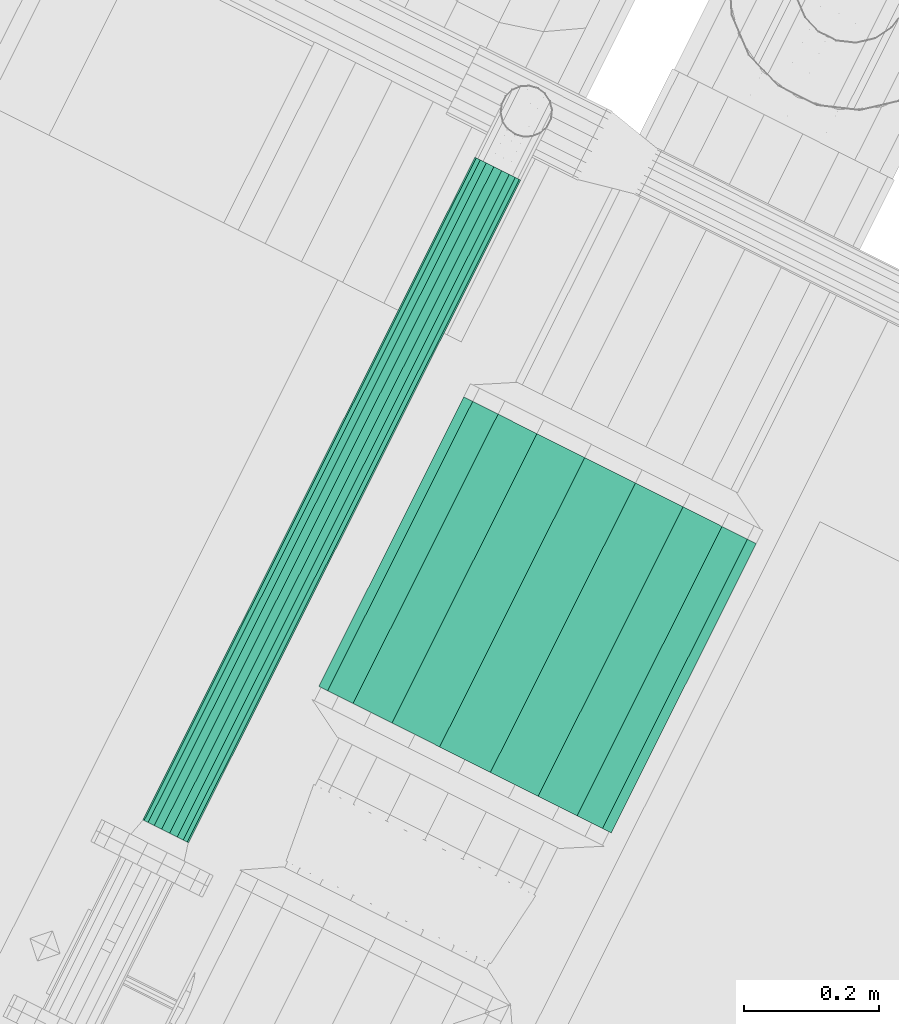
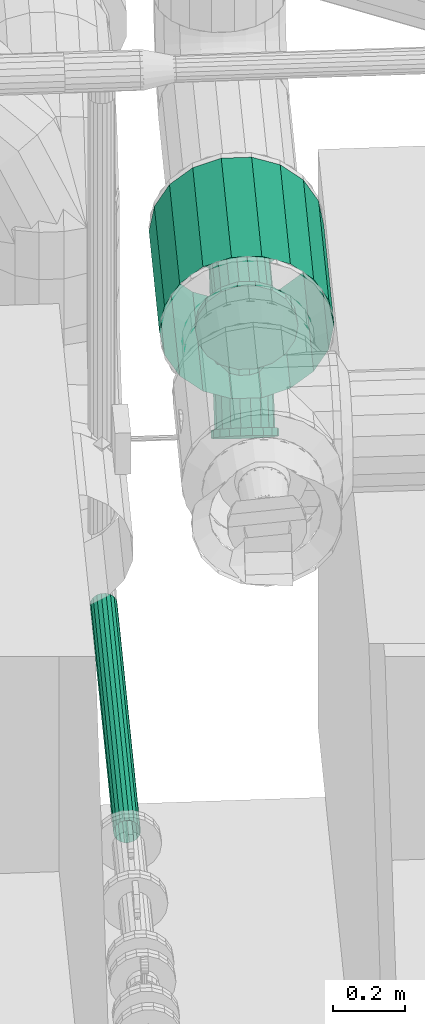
# One storey, part 13 of 206: 1 flow segment, 1 flow treatment device.
"""IFC2X3 building model written with IfcOpenShell, lengths in metres."""

from ifc_helpers import new_model, si_unit, derived_unit, direction, frame, origin, place, context, subcontext, project, spatial, face_set, surface_model, source, transform, mapped, material, type_object, type_shapes, element, save


model = new_model("IFC2X3")

# Units and contexts
model_context = context("Model", 3, precision=5.2338327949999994e-05, world=origin(), true_north=direction((0.0, 1.0)))
body_context = subcontext(model_context, "Body", "Model", "MODEL_VIEW")
ifc_project = project(units=[si_unit("LENGTHUNIT", "METRE"), si_unit("AREAUNIT", "SQUARE_METRE"), si_unit("VOLUMEUNIT", "CUBIC_METRE"), si_unit("MASSUNIT", "GRAM", prefix="KILO"), si_unit("PLANEANGLEUNIT", "RADIAN"), derived_unit("THERMALTRANSMITTANCEUNIT", [(si_unit("MASSUNIT", "GRAM", prefix="KILO"), 1), (si_unit("THERMODYNAMICTEMPERATUREUNIT", "KELVIN"), -1), (si_unit("TIMEUNIT", "SECOND"), -3)])], contexts=[model_context])

# Site, building, storey
site_placement = place(None, frame((0.0, 0.0, 0.0), z_axis=(0.0, 0.0, 1.0), x_axis=(0.8939966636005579, -0.4480736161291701, 0.0)))
site = spatial("IfcSite", under=ifc_project, at=site_placement, Name="Default", CompositionType="ELEMENT")
building_placement = place(site_placement, origin())
building = spatial("IfcBuilding", under=site, at=building_placement, CompositionType="ELEMENT")
storey_placement = place(building_placement, origin())
storey = spatial("IfcBuildingStorey", under=building, at=storey_placement, Name="Erdgeschoss", CompositionType="ELEMENT", Elevation=0.0)

# Flow treatment device
ifc_material_1 = material(Name="IfcSurfaceStyle #1741")
distribution_element_type_1 = type_object("IfcDistributionElementType", Name="Schmutzfänger 341058:Schmutzfänger 341058", material=ifc_material_1)
shared_shape_1 = source(origin(), body_context, "Body", "SurfaceModel", [
    surface_model("IfcFaceBasedSurfaceModel", [(25.439855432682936, 7.32099127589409, 2.159995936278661), (25.468636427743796, 7.325017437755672, 2.1569065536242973), (25.468636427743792, 7.415576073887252, 2.274924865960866), (25.43985543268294, 7.4052852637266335, 2.269849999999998), (25.493946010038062, 7.336610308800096, 2.1480110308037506), (25.493946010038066, 7.445207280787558, 2.2895373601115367), (25.5127314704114, 7.354371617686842, 2.13438229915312), (25.51273147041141, 7.4906049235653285, 2.311925), (25.52272700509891, 7.376159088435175, 2.117664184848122), (25.522727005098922, 7.546293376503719, 2.33938750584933), (25.522727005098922, 7.399344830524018, 2.099873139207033), (25.522727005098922, 7.583130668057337, 2.3393875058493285), (25.512731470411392, 7.4211323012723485, 2.0831550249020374), (25.512731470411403, 7.596673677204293, 2.3119250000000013), (25.49394601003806, 7.438893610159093, 2.0695262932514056), (25.493946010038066, 7.607714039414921, 2.28953736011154), (25.468636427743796, 7.450486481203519, 2.0606307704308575), (25.468636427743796, 7.614920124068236, 2.2749248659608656), (25.439855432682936, 7.454512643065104, 2.057541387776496), (25.439855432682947, 7.617422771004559, 2.2698500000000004), (25.411074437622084, 7.450486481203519, 2.0606307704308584), (25.41107443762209, 7.614920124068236, 2.2749248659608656), (25.385764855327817, 7.438893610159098, 2.0695262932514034), (25.385764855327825, 7.6077140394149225, 2.289537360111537), (25.366979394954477, 7.42113230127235, 2.0831550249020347), (25.366979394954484, 7.5966736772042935, 2.3119250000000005), (25.35698386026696, 7.399344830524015, 2.099873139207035), (25.35698386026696, 7.583130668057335, 2.33938750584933), (25.35698386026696, 7.376159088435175, 2.117664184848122), (25.35698386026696, 7.54629337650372, 2.339387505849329), (25.36697939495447, 7.35437161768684, 2.1343822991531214), (25.36697939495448, 7.4906049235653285, 2.3119250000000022), (25.385764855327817, 7.3366103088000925, 2.148011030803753), (25.38576485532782, 7.445207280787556, 2.2895373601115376), (25.411074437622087, 7.325017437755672, 2.1569065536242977), (25.41107443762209, 7.415576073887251, 2.2749248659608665), (25.29735543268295, 7.656892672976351, 2.353999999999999), (25.30594923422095, 7.6568926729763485, 2.305262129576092), (25.30594923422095, 7.634892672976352, 2.305262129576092), (25.29735543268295, 7.634892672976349, 2.353999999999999), (25.33069409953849, 7.656892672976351, 2.262402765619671), (25.33069409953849, 7.634892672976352, 2.262402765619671), (25.368605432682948, 7.656892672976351, 2.2305913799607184), (25.368605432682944, 7.634892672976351, 2.2305913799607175), (25.415110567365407, 7.656892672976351, 2.2136648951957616), (25.415110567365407, 7.634892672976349, 2.2136648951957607), (25.46460029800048, 7.6568926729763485, 2.21366489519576), (25.46460029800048, 7.634892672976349, 2.2136648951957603), (25.511105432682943, 7.656892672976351, 2.2305913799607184), (25.511105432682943, 7.634892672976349, 2.2305913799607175), (25.549016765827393, 7.656892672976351, 2.262402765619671), (25.549016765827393, 7.634892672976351, 2.2624027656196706), (25.57376163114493, 7.6568926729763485, 2.3052621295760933), (25.573761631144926, 7.634892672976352, 2.305262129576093), (25.582355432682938, 7.656892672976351, 2.3540000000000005), (25.582355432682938, 7.634892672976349, 2.3540000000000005), (25.57376163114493, 7.656892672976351, 2.402737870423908), (25.57376163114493, 7.634892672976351, 2.4027378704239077), (25.549016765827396, 7.656892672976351, 2.445597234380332), (25.549016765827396, 7.634892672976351, 2.4455972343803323), (25.511105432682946, 7.656892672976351, 2.4774086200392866), (25.511105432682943, 7.634892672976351, 2.4774086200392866), (25.46460029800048, 7.656892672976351, 2.49433510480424), (25.46460029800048, 7.634892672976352, 2.49433510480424), (25.415110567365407, 7.656892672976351, 2.4943351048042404), (25.415110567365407, 7.634892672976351, 2.49433510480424), (25.368605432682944, 7.656892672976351, 2.4774086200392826), (25.368605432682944, 7.634892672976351, 2.4774086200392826), (25.33069409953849, 7.656892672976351, 2.445597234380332), (25.33069409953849, 7.634892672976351, 2.4455972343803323), (25.30594923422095, 7.656892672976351, 2.402737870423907), (25.30594923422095, 7.634892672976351, 2.4027378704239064), (25.439855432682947, 7.656892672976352, 2.3540000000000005), (25.43985543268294, 7.634892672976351, 2.3540000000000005), (25.355705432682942, 7.634892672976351, 2.3539999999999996), (25.360780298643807, 7.634892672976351, 2.325219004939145), (25.360780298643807, 7.19889267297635, 2.325219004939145), (25.355705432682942, 7.19889267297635, 2.3539999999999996), (25.37539279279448, 7.634892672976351, 2.299909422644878), (25.37539279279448, 7.19889267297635, 2.299909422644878), (25.39778043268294, 7.634892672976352, 2.2811239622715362), (25.397780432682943, 7.198892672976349, 2.2811239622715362), (25.425242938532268, 7.634892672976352, 2.2711284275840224), (25.42524293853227, 7.198892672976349, 2.2711284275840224), (25.454467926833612, 7.634892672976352, 2.271128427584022), (25.454467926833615, 7.198892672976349, 2.2711284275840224), (25.481930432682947, 7.634892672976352, 2.2811239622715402), (25.481930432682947, 7.19889267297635, 2.2811239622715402), (25.5043180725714, 7.634892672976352, 2.299909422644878), (25.5043180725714, 7.198892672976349, 2.299909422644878), (25.518930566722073, 7.634892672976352, 2.325219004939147), (25.518930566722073, 7.198892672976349, 2.325219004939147), (25.524005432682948, 7.634892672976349, 2.3539999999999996), (25.524005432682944, 7.19889267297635, 2.353999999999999), (25.518930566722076, 7.634892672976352, 2.382780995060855), (25.518930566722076, 7.19889267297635, 2.382780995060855), (25.504318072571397, 7.634892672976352, 2.4080905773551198), (25.504318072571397, 7.198892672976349, 2.4080905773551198), (25.481930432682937, 7.634892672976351, 2.426876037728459), (25.481930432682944, 7.19889267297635, 2.42687603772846), (25.454467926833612, 7.634892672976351, 2.436871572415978), (25.454467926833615, 7.19889267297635, 2.436871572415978), (25.425242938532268, 7.634892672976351, 2.4368715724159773), (25.42524293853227, 7.19889267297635, 2.4368715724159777), (25.39778043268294, 7.634892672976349, 2.4268760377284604), (25.39778043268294, 7.198892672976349, 2.426876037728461), (25.37539279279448, 7.634892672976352, 2.408090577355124), (25.37539279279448, 7.198892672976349, 2.408090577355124), (25.36078029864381, 7.634892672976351, 2.382780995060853), (25.36078029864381, 7.19889267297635, 2.382780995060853), (25.29735543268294, 7.19889267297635, 2.354), (25.305949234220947, 7.19889267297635, 2.305262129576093), (25.30594923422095, 7.176892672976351, 2.305262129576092), (25.29735543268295, 7.176892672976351, 2.3539999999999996), (25.33069409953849, 7.19889267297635, 2.2624027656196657), (25.33069409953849, 7.176892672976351, 2.262402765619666), (25.368605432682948, 7.19889267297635, 2.2305913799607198), (25.368605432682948, 7.176892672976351, 2.230591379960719), (25.415110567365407, 7.19889267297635, 2.21366489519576), (25.41511056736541, 7.176892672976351, 2.2136648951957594), (25.46460029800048, 7.19889267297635, 2.2136648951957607), (25.464600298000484, 7.176892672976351, 2.2136648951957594), (25.511105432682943, 7.19889267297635, 2.2305913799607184), (25.511105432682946, 7.176892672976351, 2.230591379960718), (25.549016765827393, 7.19889267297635, 2.262402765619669), (25.549016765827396, 7.176892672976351, 2.2624027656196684), (25.57376163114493, 7.19889267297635, 2.3052621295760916), (25.57376163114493, 7.17689267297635, 2.3052621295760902), (25.582355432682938, 7.19889267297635, 2.354000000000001), (25.582355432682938, 7.17689267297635, 2.354000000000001), (25.57376163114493, 7.19889267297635, 2.402737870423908), (25.57376163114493, 7.176892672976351, 2.4027378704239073), (25.549016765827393, 7.19889267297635, 2.4455972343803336), (25.549016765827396, 7.17689267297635, 2.4455972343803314), (25.511105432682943, 7.19889267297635, 2.4774086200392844), (25.511105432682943, 7.176892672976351, 2.4774086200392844), (25.46460029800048, 7.19889267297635, 2.49433510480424), (25.464600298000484, 7.176892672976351, 2.4943351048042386), (25.415110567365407, 7.19889267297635, 2.4943351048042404), (25.41511056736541, 7.176892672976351, 2.4943351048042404), (25.368605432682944, 7.19889267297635, 2.477408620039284), (25.368605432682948, 7.176892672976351, 2.477408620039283), (25.33069409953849, 7.19889267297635, 2.445597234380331), (25.330694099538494, 7.176892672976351, 2.445597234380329), (25.30594923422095, 7.19889267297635, 2.402737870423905), (25.30594923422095, 7.176892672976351, 2.4027378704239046), (25.439855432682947, 7.19889267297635, 2.3540000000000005), (25.439855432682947, 7.176892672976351, 2.3539999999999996), (25.345705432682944, 7.387751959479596, 2.108768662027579), (25.35138337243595, 7.413298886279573, 2.0891658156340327), (25.35138337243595, 7.399906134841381, 2.071712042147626), (25.345705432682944, 7.374359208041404, 2.091314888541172), (25.367732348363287, 7.43576447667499, 2.0719273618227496), (25.36773234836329, 7.422371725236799, 2.054473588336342), (25.392780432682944, 7.452439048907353, 2.0591325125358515), (25.39278043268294, 7.439046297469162, 2.0416787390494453), (25.423506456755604, 7.461311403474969, 2.0523245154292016), (25.423506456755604, 7.447918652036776, 2.034870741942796), (25.456204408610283, 7.461311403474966, 2.052324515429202), (25.456204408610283, 7.447918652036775, 2.0348707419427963), (25.48693043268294, 7.452439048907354, 2.05913251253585), (25.486930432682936, 7.4390462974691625, 2.0416787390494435), (25.511978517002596, 7.43576447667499, 2.071927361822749), (25.5119785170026, 7.422371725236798, 2.0544735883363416), (25.528327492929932, 7.41329888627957, 2.089165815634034), (25.528327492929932, 7.399906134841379, 2.071712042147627), (25.534005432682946, 7.387751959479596, 2.108768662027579), (25.534005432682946, 7.374359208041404, 2.0913148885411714), (25.528327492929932, 7.362205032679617, 2.1283715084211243), (25.528327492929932, 7.348812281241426, 2.1109177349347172), (25.511978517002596, 7.339739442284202, 2.145609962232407), (25.511978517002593, 7.32634669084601, 2.1281561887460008), (25.48693043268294, 7.323064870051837, 2.1584048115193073), (25.486930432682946, 7.309672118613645, 2.1409510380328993), (25.456204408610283, 7.3141925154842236, 2.1652128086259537), (25.456204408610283, 7.300799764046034, 2.1477590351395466), (25.423506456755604, 7.314192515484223, 2.165212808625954), (25.423506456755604, 7.300799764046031, 2.1477590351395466), (25.39278043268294, 7.323064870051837, 2.1584048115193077), (25.39278043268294, 7.309672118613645, 2.1409510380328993), (25.367732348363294, 7.339739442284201, 2.1456099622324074), (25.36773234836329, 7.32634669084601, 2.1281561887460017), (25.35138337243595, 7.362205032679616, 2.128371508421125), (25.35138337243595, 7.3488122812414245, 2.1109177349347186), (25.43985543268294, 7.387751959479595, 2.10876866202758), (25.43985543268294, 7.374359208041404, 2.091314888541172), (25.35570543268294, 7.374359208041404, 2.091314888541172), (25.36078029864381, 7.397192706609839, 2.0737941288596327), (25.360780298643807, 7.287813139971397, 1.9312479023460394), (25.355705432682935, 7.264979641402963, 1.9487686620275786), (25.37539279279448, 7.417272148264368, 2.0583866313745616), (25.37539279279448, 7.307892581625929, 1.9158404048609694), (25.39778043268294, 7.432175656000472, 2.0469507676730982), (25.397780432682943, 7.32279608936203, 1.9044045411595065), (25.42524293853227, 7.440105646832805, 2.040865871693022), (25.42524293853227, 7.3307260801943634, 1.8983196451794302), (25.45446792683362, 7.440105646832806, 2.04086587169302), (25.454467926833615, 7.330726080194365, 1.898319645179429), (25.481930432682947, 7.432175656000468, 2.0469507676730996), (25.481930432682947, 7.3227960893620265, 1.9044045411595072), (25.504318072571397, 7.41727214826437, 2.05838663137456), (25.5043180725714, 7.30789258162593, 1.9158404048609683), (25.518930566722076, 7.397192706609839, 2.0737941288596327), (25.518930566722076, 7.287813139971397, 1.9312479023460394), (25.524005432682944, 7.374359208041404, 2.091314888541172), (25.524005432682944, 7.264979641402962, 1.9487686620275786), (25.51893056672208, 7.351525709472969, 2.10883564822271), (25.518930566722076, 7.242146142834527, 1.9662894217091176), (25.504318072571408, 7.3314462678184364, 2.124243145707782), (25.504318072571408, 7.222066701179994, 1.9816969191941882), (25.481930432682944, 7.3165427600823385, 2.1356790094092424), (25.481930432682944, 7.207163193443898, 1.99313278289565), (25.454467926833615, 7.3086127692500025, 2.1417639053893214), (25.454467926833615, 7.199233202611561, 1.9992176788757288), (25.42524293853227, 7.308612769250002, 2.141763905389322), (25.42524293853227, 7.19923320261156, 1.9992176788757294), (25.397780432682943, 7.3165427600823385, 2.135679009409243), (25.397780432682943, 7.207163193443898, 1.9931327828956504), (25.37539279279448, 7.3314462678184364, 2.124243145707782), (25.37539279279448, 7.222066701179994, 1.9816969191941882), (25.36078029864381, 7.35152570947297, 2.1088356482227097), (25.36078029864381, 7.242146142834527, 1.966289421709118), (25.345705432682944, 7.264979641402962, 1.9487686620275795), (25.351383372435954, 7.290526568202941, 1.9291658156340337), (25.351383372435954, 7.277133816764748, 1.9117120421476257), (25.345705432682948, 7.251586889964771, 1.9313148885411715), (25.36773234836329, 7.312992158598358, 1.9119273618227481), (25.36773234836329, 7.299599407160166, 1.8944735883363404), (25.39278043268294, 7.329666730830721, 1.8991325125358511), (25.39278043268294, 7.316273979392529, 1.8816787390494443), (25.423506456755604, 7.3385390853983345, 1.8923245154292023), (25.423506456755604, 7.325146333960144, 1.874870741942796), (25.456204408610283, 7.3385390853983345, 1.8923245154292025), (25.456204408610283, 7.325146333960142, 1.8748707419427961), (25.486930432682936, 7.329666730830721, 1.8991325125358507), (25.486930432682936, 7.316273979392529, 1.8816787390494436), (25.5119785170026, 7.312992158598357, 1.9119273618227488), (25.5119785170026, 7.299599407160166, 1.894473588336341), (25.528327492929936, 7.290526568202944, 1.9291658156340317), (25.528327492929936, 7.277133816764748, 1.9117120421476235), (25.534005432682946, 7.264979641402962, 1.9487686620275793), (25.534005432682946, 7.25158688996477, 1.9313148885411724), (25.528327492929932, 7.239432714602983, 1.9683715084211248), (25.528327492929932, 7.226039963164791, 1.9509177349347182), (25.511978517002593, 7.216967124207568, 1.985609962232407), (25.511978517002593, 7.203574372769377, 1.9681561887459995), (25.486930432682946, 7.200292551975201, 1.9984048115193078), (25.48693043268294, 7.186899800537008, 1.9809510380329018), (25.45620440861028, 7.19142019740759, 2.0052128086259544), (25.456204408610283, 7.1780274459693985, 1.9877590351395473), (25.4235064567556, 7.191420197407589, 2.0052128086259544), (25.423506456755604, 7.178027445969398, 1.9877590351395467), (25.39278043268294, 7.200292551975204, 1.998404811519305), (25.39278043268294, 7.186899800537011, 1.9809510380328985), (25.36773234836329, 7.2169671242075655, 1.9856099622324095), (25.367732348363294, 7.203574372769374, 1.968156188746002), (25.351383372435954, 7.239432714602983, 1.9683715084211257), (25.351383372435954, 7.22603996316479, 1.950917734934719), (25.43985543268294, 7.264979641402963, 1.9487686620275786), (25.43985543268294, 7.251586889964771, 1.931314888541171), (25.19735543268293, 7.656892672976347, 2.3540000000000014), (25.211979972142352, 7.656892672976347, 2.2710601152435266), (25.211979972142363, 7.176892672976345, 2.2710601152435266), (25.197355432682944, 7.176892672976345, 2.354000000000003), (25.254089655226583, 7.656892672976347, 2.198124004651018), (25.25408965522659, 7.176892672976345, 2.198124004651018), (25.31860543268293, 7.656892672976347, 2.1439888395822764), (25.318605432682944, 7.176892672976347, 2.1439888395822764), (25.397745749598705, 7.6568926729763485, 2.11518411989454), (25.397745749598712, 7.176892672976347, 2.1151841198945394), (25.481965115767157, 7.6568926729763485, 2.115184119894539), (25.48196511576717, 7.17689267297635, 2.115184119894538), (25.56110543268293, 7.656892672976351, 2.143988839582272), (25.561105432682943, 7.176892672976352, 2.143988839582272), (25.625621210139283, 7.656892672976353, 2.198124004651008), (25.625621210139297, 7.176892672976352, 2.198124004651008), (25.667730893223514, 7.656892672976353, 2.27106011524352), (25.66773089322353, 7.176892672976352, 2.2710601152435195), (25.682355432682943, 7.656892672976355, 2.353999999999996), (25.682355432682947, 7.176892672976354, 2.353999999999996), (25.66773089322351, 7.656892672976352, 2.436939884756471), (25.66773089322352, 7.176892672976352, 2.4369398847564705), (25.625621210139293, 7.656892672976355, 2.5098759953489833), (25.6256212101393, 7.176892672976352, 2.509875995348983), (25.561105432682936, 7.656892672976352, 2.564011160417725), (25.56110543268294, 7.176892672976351, 2.5640111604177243), (25.48196511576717, 7.656892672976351, 2.59281588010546), (25.48196511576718, 7.176892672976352, 2.5928158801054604), (25.397745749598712, 7.6568926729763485, 2.592815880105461), (25.397745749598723, 7.17689267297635, 2.592815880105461), (25.318605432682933, 7.656892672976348, 2.564011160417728), (25.318605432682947, 7.176892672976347, 2.564011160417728), (25.254089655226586, 7.656892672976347, 2.509875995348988), (25.254089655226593, 7.176892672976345, 2.509875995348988), (25.211979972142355, 7.656892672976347, 2.4369398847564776), (25.211979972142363, 7.176892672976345, 2.436939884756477)], [face_set([[[0, 1, 2, 3]], [[1, 4, 5, 2]], [[4, 6, 7, 5]], [[6, 8, 9, 7]], [[8, 10, 11, 9]], [[10, 12, 13, 11]], [[12, 14, 15, 13]], [[14, 16, 17, 15]], [[16, 18, 19, 17]], [[18, 20, 21, 19]], [[20, 22, 23, 21]], [[22, 24, 25, 23]], [[24, 26, 27, 25]], [[26, 28, 29, 27]], [[28, 30, 31, 29]], [[30, 32, 33, 31]], [[32, 34, 35, 33]], [[34, 0, 3, 35]], [[36, 37, 38, 39]], [[37, 40, 41, 38]], [[40, 42, 43, 41]], [[42, 44, 45, 43]], [[44, 46, 47, 45]], [[46, 48, 49, 47]], [[48, 50, 51, 49]], [[50, 52, 53, 51]], [[52, 54, 55, 53]], [[54, 56, 57, 55]], [[56, 58, 59, 57]], [[58, 60, 61, 59]], [[60, 62, 63, 61]], [[62, 64, 65, 63]], [[64, 66, 67, 65]], [[66, 68, 69, 67]], [[68, 70, 71, 69]], [[70, 36, 39, 71]], [[72, 37, 36]], [[72, 40, 37]], [[72, 42, 40]], [[72, 44, 42]], [[72, 46, 44]], [[72, 48, 46]], [[72, 50, 48]], [[72, 52, 50]], [[72, 54, 52]], [[72, 56, 54]], [[72, 58, 56]], [[72, 60, 58]], [[72, 62, 60]], [[72, 64, 62]], [[72, 66, 64]], [[72, 68, 66]], [[72, 70, 68]], [[72, 36, 70]], [[73, 71, 39]], [[73, 69, 71]], [[73, 67, 69]], [[73, 65, 67]], [[73, 63, 65]], [[73, 61, 63]], [[73, 59, 61]], [[73, 57, 59]], [[73, 55, 57]], [[73, 53, 55]], [[73, 51, 53]], [[73, 49, 51]], [[73, 47, 49]], [[73, 45, 47]], [[73, 43, 45]], [[73, 41, 43]], [[73, 38, 41]], [[73, 39, 38]], [[74, 75, 76, 77]], [[75, 78, 79, 76]], [[78, 80, 81, 79]], [[80, 82, 83, 81]], [[82, 84, 85, 83]], [[84, 86, 87, 85]], [[86, 88, 89, 87]], [[88, 90, 91, 89]], [[90, 92, 93, 91]], [[92, 94, 95, 93]], [[94, 96, 97, 95]], [[96, 98, 99, 97]], [[98, 100, 101, 99]], [[100, 102, 103, 101]], [[102, 104, 105, 103]], [[104, 106, 107, 105]], [[106, 108, 109, 107]], [[108, 74, 77, 109]], [[110, 111, 112, 113]], [[111, 114, 115, 112]], [[114, 116, 117, 115]], [[116, 118, 119, 117]], [[118, 120, 121, 119]], [[120, 122, 123, 121]], [[122, 124, 125, 123]], [[124, 126, 127, 125]], [[126, 128, 129, 127]], [[128, 130, 131, 129]], [[130, 132, 133, 131]], [[132, 134, 135, 133]], [[134, 136, 137, 135]], [[136, 138, 139, 137]], [[138, 140, 141, 139]], [[140, 142, 143, 141]], [[142, 144, 145, 143]], [[144, 110, 113, 145]], [[146, 111, 110]], [[146, 114, 111]], [[146, 116, 114]], [[146, 118, 116]], [[146, 120, 118]], [[146, 122, 120]], [[146, 124, 122]], [[146, 126, 124]], [[146, 128, 126]], [[146, 130, 128]], [[146, 132, 130]], [[146, 134, 132]], [[146, 136, 134]], [[146, 138, 136]], [[146, 140, 138]], [[146, 142, 140]], [[146, 144, 142]], [[146, 110, 144]], [[147, 145, 113]], [[147, 143, 145]], [[147, 141, 143]], [[147, 139, 141]], [[147, 137, 139]], [[147, 135, 137]], [[147, 133, 135]], [[147, 131, 133]], [[147, 129, 131]], [[147, 127, 129]], [[147, 125, 127]], [[147, 123, 125]], [[147, 121, 123]], [[147, 119, 121]], [[147, 117, 119]], [[147, 115, 117]], [[147, 112, 115]], [[147, 113, 112]], [[148, 149, 150, 151]], [[149, 152, 153, 150]], [[152, 154, 155, 153]], [[154, 156, 157, 155]], [[156, 158, 159, 157]], [[158, 160, 161, 159]], [[160, 162, 163, 161]], [[162, 164, 165, 163]], [[164, 166, 167, 165]], [[166, 168, 169, 167]], [[168, 170, 171, 169]], [[170, 172, 173, 171]], [[172, 174, 175, 173]], [[174, 176, 177, 175]], [[176, 178, 179, 177]], [[178, 180, 181, 179]], [[180, 182, 183, 181]], [[182, 148, 151, 183]], [[184, 149, 148]], [[184, 152, 149]], [[184, 154, 152]], [[184, 156, 154]], [[184, 158, 156]], [[184, 160, 158]], [[184, 162, 160]], [[184, 164, 162]], [[184, 166, 164]], [[184, 168, 166]], [[184, 170, 168]], [[184, 172, 170]], [[184, 174, 172]], [[184, 176, 174]], [[184, 178, 176]], [[184, 180, 178]], [[184, 182, 180]], [[184, 148, 182]], [[185, 183, 151]], [[185, 181, 183]], [[185, 179, 181]], [[185, 177, 179]], [[185, 175, 177]], [[185, 173, 175]], [[185, 171, 173]], [[185, 169, 171]], [[185, 167, 169]], [[185, 165, 167]], [[185, 163, 165]], [[185, 161, 163]], [[185, 159, 161]], [[185, 157, 159]], [[185, 155, 157]], [[185, 153, 155]], [[185, 150, 153]], [[185, 151, 150]], [[186, 187, 188, 189]], [[187, 190, 191, 188]], [[190, 192, 193, 191]], [[192, 194, 195, 193]], [[194, 196, 197, 195]], [[196, 198, 199, 197]], [[198, 200, 201, 199]], [[200, 202, 203, 201]], [[202, 204, 205, 203]], [[204, 206, 207, 205]], [[206, 208, 209, 207]], [[208, 210, 211, 209]], [[210, 212, 213, 211]], [[212, 214, 215, 213]], [[214, 216, 217, 215]], [[216, 218, 219, 217]], [[218, 220, 221, 219]], [[220, 186, 189, 221]], [[222, 223, 224, 225]], [[223, 226, 227, 224]], [[226, 228, 229, 227]], [[228, 230, 231, 229]], [[230, 232, 233, 231]], [[232, 234, 235, 233]], [[234, 236, 237, 235]], [[236, 238, 239, 237]], [[238, 240, 241, 239]], [[240, 242, 243, 241]], [[242, 244, 245, 243]], [[244, 246, 247, 245]], [[246, 248, 249, 247]], [[248, 250, 251, 249]], [[250, 252, 253, 251]], [[252, 254, 255, 253]], [[254, 256, 257, 255]], [[256, 222, 225, 257]], [[258, 223, 222]], [[258, 226, 223]], [[258, 228, 226]], [[258, 230, 228]], [[258, 232, 230]], [[258, 234, 232]], [[258, 236, 234]], [[258, 238, 236]], [[258, 240, 238]], [[258, 242, 240]], [[258, 244, 242]], [[258, 246, 244]], [[258, 248, 246]], [[258, 250, 248]], [[258, 252, 250]], [[258, 254, 252]], [[258, 256, 254]], [[258, 222, 256]], [[259, 257, 225]], [[259, 255, 257]], [[259, 253, 255]], [[259, 251, 253]], [[259, 249, 251]], [[259, 247, 249]], [[259, 245, 247]], [[259, 243, 245]], [[259, 241, 243]], [[259, 239, 241]], [[259, 237, 239]], [[259, 235, 237]], [[259, 233, 235]], [[259, 231, 233]], [[259, 229, 231]], [[259, 227, 229]], [[259, 224, 227]], [[259, 225, 224]], [[260, 261, 262, 263]], [[261, 264, 265, 262]], [[264, 266, 267, 265]], [[266, 268, 269, 267]], [[268, 270, 271, 269]], [[270, 272, 273, 271]], [[272, 274, 275, 273]], [[274, 276, 277, 275]], [[276, 278, 279, 277]], [[278, 280, 281, 279]], [[280, 282, 283, 281]], [[282, 284, 285, 283]], [[284, 286, 287, 285]], [[286, 288, 289, 287]], [[288, 290, 291, 289]], [[290, 292, 293, 291]], [[292, 294, 295, 293]], [[294, 260, 263, 295]]])]),
])
type_shapes(distribution_element_type_1, [shared_shape_1])
flow_treatment_device_placement = place(storey_placement, origin())
element("IfcFlowTreatmentDevice", 1, at=flow_treatment_device_placement, inside=storey, type_object=distribution_element_type_1, material=ifc_material_1, Name="Schmutzfänger", ObjectType="Schmutzfänger", context=body_context, shape_type="MappedRepresentation", body=[
    mapped(shared_shape_1, transform((0.0, 0.0, 0.0), scale=1.0)),
])

# Flow segment
ifc_material_2 = material(Name="IfcSurfaceStyle #352577")
distribution_element_type_2 = type_object("IfcDistributionElementType", Name="Stahlrohr nach DIN 2448 359766:Stahlrohr nach DIN 2448 359766", material=ifc_material_2)
shared_shape_2 = source(origin(), body_context, "Body", "SurfaceModel", [
    surface_model("IfcFaceBasedSurfaceModel", [(25.128690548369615, 7.9821629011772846, 0.8699999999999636), (25.126395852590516, 7.9821629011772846, 0.8830138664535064), (25.126395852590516, 6.8829583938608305, 0.8830138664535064), (25.128690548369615, 6.8829583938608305, 0.8699999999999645), (25.11978853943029, 7.9821629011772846, 0.8944580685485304), (25.11978853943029, 6.8829583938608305, 0.8944580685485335), (25.109665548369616, 7.9821629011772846, 0.9029522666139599), (25.10966554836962, 6.8829583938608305, 0.9029522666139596), (25.097247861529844, 7.9821629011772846, 0.9074719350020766), (25.097247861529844, 6.8829583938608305, 0.9074719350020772), (25.084033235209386, 7.9821629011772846, 0.9074719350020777), (25.084033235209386, 6.8829583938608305, 0.907471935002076), (25.071615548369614, 7.9821629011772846, 0.9029522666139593), (25.07161554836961, 6.8829583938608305, 0.9029522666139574), (25.061492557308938, 7.9821629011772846, 0.8944580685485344), (25.061492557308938, 6.8829583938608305, 0.8944580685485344), (25.05488524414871, 7.9821629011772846, 0.8830138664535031), (25.05488524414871, 6.8829583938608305, 0.8830138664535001), (25.052590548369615, 7.9821629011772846, 0.8699999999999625), (25.05259054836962, 6.8829583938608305, 0.86999999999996), (25.05488524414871, 7.9821629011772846, 0.8569861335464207), (25.05488524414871, 6.8829583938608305, 0.8569861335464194), (25.061492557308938, 7.9821629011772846, 0.84554193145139), (25.06149255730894, 6.8829583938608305, 0.8455419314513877), (25.071615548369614, 7.9821629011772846, 0.837047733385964), (25.07161554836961, 6.8829583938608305, 0.8370477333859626), (25.084033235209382, 7.9821629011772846, 0.8325280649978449), (25.084033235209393, 6.8829583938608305, 0.8325280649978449), (25.097247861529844, 7.9821629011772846, 0.8325280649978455), (25.097247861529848, 6.8829583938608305, 0.8325280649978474), (25.109665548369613, 7.9821629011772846, 0.8370477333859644), (25.10966554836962, 6.8829583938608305, 0.8370477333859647), (25.11978853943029, 7.9821629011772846, 0.8455419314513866), (25.119788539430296, 6.8829583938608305, 0.8455419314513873), (25.126395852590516, 7.9821629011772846, 0.856986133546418), (25.126395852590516, 6.8829583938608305, 0.8569861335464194)], [face_set([[[0, 1, 2, 3]], [[1, 4, 5, 2]], [[4, 6, 7, 5]], [[6, 8, 9, 7]], [[8, 10, 11, 9]], [[10, 12, 13, 11]], [[12, 14, 15, 13]], [[14, 16, 17, 15]], [[16, 18, 19, 17]], [[18, 20, 21, 19]], [[20, 22, 23, 21]], [[22, 24, 25, 23]], [[24, 26, 27, 25]], [[26, 28, 29, 27]], [[28, 30, 31, 29]], [[30, 32, 33, 31]], [[32, 34, 35, 33]], [[34, 0, 3, 35]]])]),
])
type_shapes(distribution_element_type_2, [shared_shape_2])
flow_segment_placement = place(storey_placement, origin())
element("IfcFlowSegment", 2, at=flow_segment_placement, inside=storey, type_object=distribution_element_type_2, material=ifc_material_2, Name="Stahlrohr nach DIN 2448", ObjectType="Stahlrohr nach DIN 2448", context=body_context, shape_type="MappedRepresentation", body=[
    mapped(shared_shape_2, transform((0.0, 0.0, 0.0), scale=1.0)),
])

save(model, "model.ifc")
